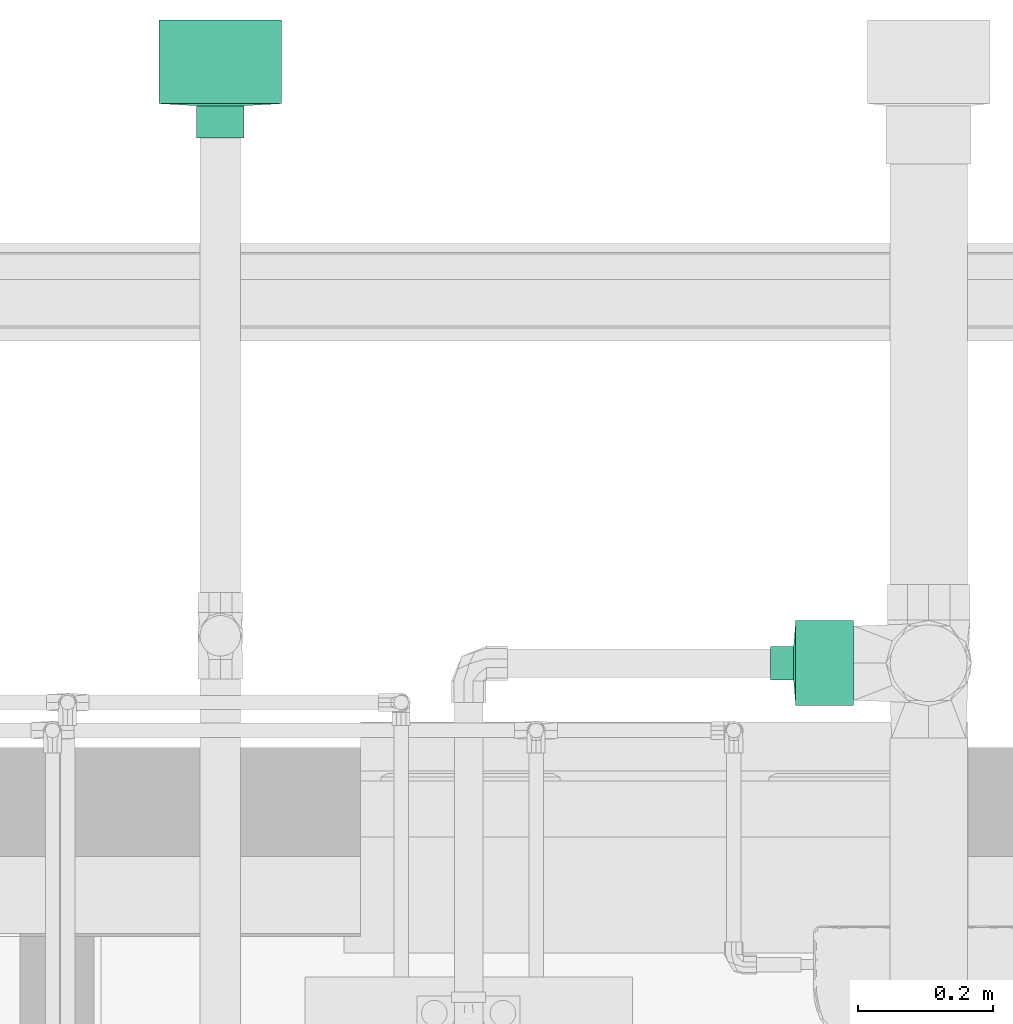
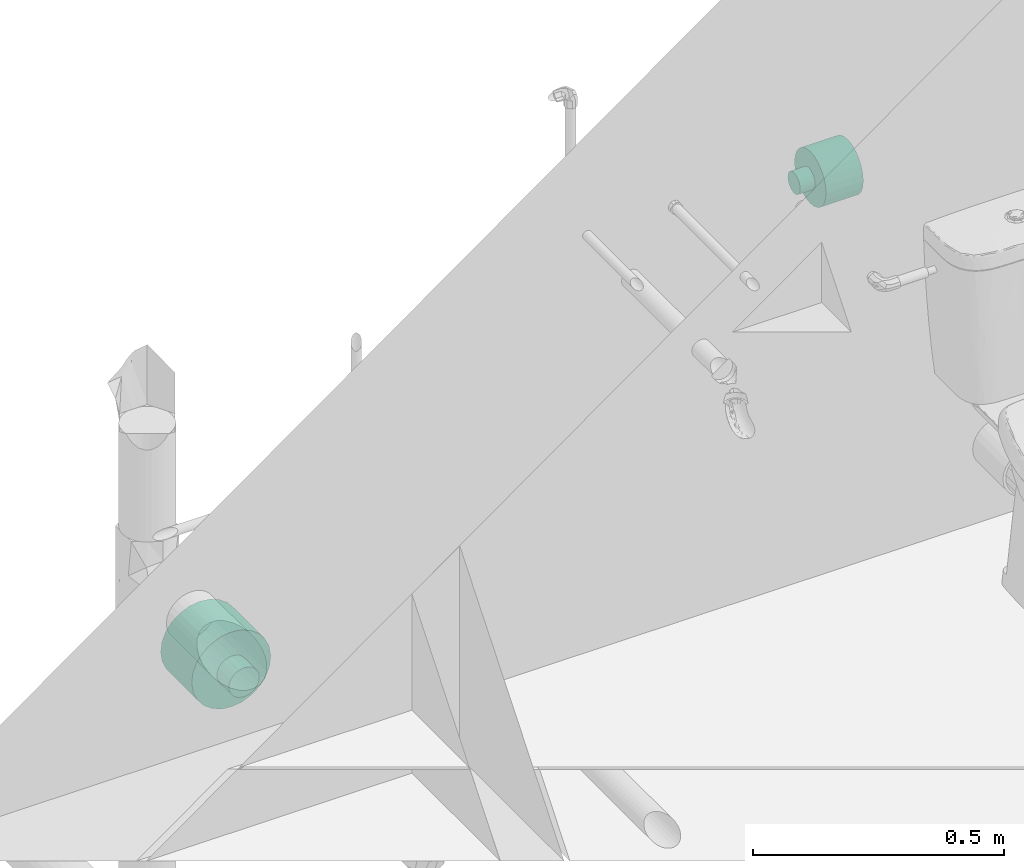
# One storey, part 35 of 41: 2 flow fittings.
"""IFC2X3 building model written with IfcOpenShell, lengths in millimetres."""

from ifc_helpers import new_model, entity, si_unit, converted_unit, derived_unit, direction, frame, origin, place, context, subcontext, project, spatial, faceted_brep, source, transform, mapped, type_object, type_shapes, element, save


model = new_model("IFC2X3")

# Units and contexts
model_context = context("Model", 3, precision=0.01, world=origin(), true_north=direction((6.12303176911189e-17, 1.0)))
body_context = subcontext(model_context, "Body", "Model", "MODEL_VIEW")
ifc_project = project(units=[si_unit("LENGTHUNIT", "METRE", prefix="MILLI"), si_unit("AREAUNIT", "SQUARE_METRE"), si_unit("VOLUMEUNIT", "CUBIC_METRE"), converted_unit("PLANEANGLEUNIT", "DEGREE", entity("IfcRatioMeasure", 0.0174532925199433), si_unit("PLANEANGLEUNIT", "RADIAN"), dimensions=[0, 0, 0, 0, 0, 0, 0]), si_unit("MASSUNIT", "GRAM", prefix="KILO"), derived_unit("MASSDENSITYUNIT", [(si_unit("MASSUNIT", "GRAM", prefix="KILO"), 1), (si_unit("LENGTHUNIT", "METRE"), -3)]), si_unit("TIMEUNIT", "SECOND"), si_unit("FREQUENCYUNIT", "HERTZ"), si_unit("THERMODYNAMICTEMPERATUREUNIT", "DEGREE_CELSIUS"), derived_unit("THERMALTRANSMITTANCEUNIT", [(si_unit("MASSUNIT", "GRAM", prefix="KILO"), 1), (si_unit("THERMODYNAMICTEMPERATUREUNIT", "KELVIN"), -1), (si_unit("TIMEUNIT", "SECOND"), -3)]), derived_unit("VOLUMETRICFLOWRATEUNIT", [(si_unit("LENGTHUNIT", "METRE"), 3), (si_unit("TIMEUNIT", "SECOND"), -1)]), si_unit("ELECTRICCURRENTUNIT", "AMPERE"), si_unit("ELECTRICVOLTAGEUNIT", "VOLT"), si_unit("POWERUNIT", "WATT"), si_unit("FORCEUNIT", "NEWTON", prefix="KILO"), si_unit("ILLUMINANCEUNIT", "LUX"), si_unit("LUMINOUSFLUXUNIT", "LUMEN"), si_unit("LUMINOUSINTENSITYUNIT", "CANDELA"), derived_unit("USERDEFINED", [(si_unit("MASSUNIT", "GRAM", prefix="KILO"), -1), (si_unit("LENGTHUNIT", "METRE"), -2), (si_unit("TIMEUNIT", "SECOND"), 3), (si_unit("LUMINOUSFLUXUNIT", "LUMEN"), 1)]), derived_unit("LINEARVELOCITYUNIT", [(si_unit("LENGTHUNIT", "METRE"), 1), (si_unit("TIMEUNIT", "SECOND"), -1)]), si_unit("PRESSUREUNIT", "PASCAL"), derived_unit("USERDEFINED", [(si_unit("LENGTHUNIT", "METRE"), -2), (si_unit("MASSUNIT", "GRAM", prefix="KILO"), 1), (si_unit("TIMEUNIT", "SECOND"), -2)])], contexts=[model_context])

# Site, building, storey
site_placement = place(None, origin())
site = spatial("IfcSite", under=ifc_project, at=site_placement, Name="Surface", CompositionType="ELEMENT")
building_placement = place(site_placement, origin())
building = spatial("IfcBuilding", under=site, at=building_placement, CompositionType="ELEMENT")
storey_placement = place(building_placement, frame((0.0, 0.0, 300.0)))
storey = spatial("IfcBuildingStorey", under=building, at=storey_placement, Name="F.F.L", CompositionType="ELEMENT", Elevation=300.0)

# Flow fittings
pipe_fitting_type_1 = type_object("IfcPipeFittingType", Name="Standard", PredefinedType="NOTDEFINED")
shared_shape_1 = source(origin(), body_context, "Body", "Brep", [
    faceted_brep([(89.0968750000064, 20.1488418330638, 14.6446236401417), (89.0968750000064, 13.9201113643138, 19.1700612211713), (89.0968750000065, 7.69138089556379, 23.6954988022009), (89.0968750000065, -0.00775337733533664, 23.6954988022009), (89.0968750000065, -3.8573205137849, 23.6954988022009), (89.0968750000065, -7.70688765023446, 23.6954988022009), (89.0968750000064, -13.9356181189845, 19.1700612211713), (89.0968750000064, -20.1643485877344, 14.6446236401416), (89.0968750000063, -22.5435119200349, 7.32231182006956), (89.0968750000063, -23.5267653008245, 4.29616907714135), (89.0968750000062, -24.9226752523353, 0.0), (89.0968750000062, -23.5267656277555, -4.29616807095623), (89.0968750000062, -22.5435119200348, -7.3223118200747), (89.0968750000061, -20.1643485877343, -14.6446236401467), (89.096875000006, -13.9356181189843, -19.1700612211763), (89.096875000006, -7.70688765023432, -23.6954988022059), (89.096875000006, -0.00775337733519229, -23.6954988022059), (89.096875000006, 3.84181375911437, -23.6954988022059), (89.096875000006, 7.69138089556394, -23.6954988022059), (89.096875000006, 13.9201113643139, -19.1700612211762), (89.0968750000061, 20.1488418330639, -14.6446236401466), (89.0968750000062, 22.5280051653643, -7.32231182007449), (89.0968750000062, 23.5112585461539, -4.29616907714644), (89.0968750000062, 24.9071684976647, 0.0), (89.0968750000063, 23.511258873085, 4.29616807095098), (89.0968750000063, 22.5280051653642, 7.32231182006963), (85.9218750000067, -48.0165774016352, 38.2919427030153), (85.9218750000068, -39.2766913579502, 49.2514131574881), (85.9218750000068, -26.6471901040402, 55.333460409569), (85.9218750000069, -14.0176888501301, 61.41550766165), (85.9218750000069, 0.0, 61.41550766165), (85.9218750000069, 14.01768885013, 61.41550766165), (85.9218750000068, 26.64719010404, 55.3334604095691), (85.9218750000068, 39.27669135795, 49.2514131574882), (85.9218750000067, 48.016577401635, 38.2919427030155), (85.9218750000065, 56.75646344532, 27.3324722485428), (85.9218750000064, 59.87569266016, 13.666236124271), (85.9218750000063, 62.994921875, 0.0), (85.9218750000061, 59.8756926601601, -13.6662361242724), (85.921875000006, 56.7564634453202, -27.3324722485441), (85.9218750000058, 48.0165774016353, -38.2919427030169), (85.9218750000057, 39.2766913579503, -49.2514131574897), (85.9218750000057, 26.6471901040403, -55.3334604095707), (85.9218750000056, 14.0176888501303, -61.4155076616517), (85.9218750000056, 0.0, -61.4155076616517), (85.9218750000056, -14.0176888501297, -61.4155076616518), (85.9218750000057, -26.6471901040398, -55.333460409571), (85.9218750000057, -39.2766913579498, -49.2514131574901), (85.9218750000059, -48.0165774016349, -38.2919427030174), (85.921875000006, -56.7564634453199, -27.3324722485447), (85.9218750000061, -59.87569266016, -13.666236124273), (85.9218750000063, -62.994921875, 0.0), (85.9218750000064, -59.8756926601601, 13.6662361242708), (85.9218750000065, -56.7564634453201, 27.3324722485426), (87.4243497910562, 23.9243074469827, -38.0811577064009), (87.4301877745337, 15.5463552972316, -42.1263061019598), (87.5722592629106, -30.8970561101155, -30.1980467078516), (87.4243497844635, -23.9316462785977, -38.0811573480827), (87.6808866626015, -6.19964656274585, -41.4372838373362), (87.5093749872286, 3.44478677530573, -43.8194236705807), (87.3127220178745, 45.5942079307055, -8.11175115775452), (87.4260565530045, 42.19170049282, -15.5058759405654), (87.5722593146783, 30.8889944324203, -30.1980470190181), (87.4290036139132, 38.0595405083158, -23.8515470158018), (87.4290038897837, -38.0668996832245, -23.8515434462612), (87.4260567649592, -42.1990449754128, -15.5058739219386), (87.4301877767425, -15.5537223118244, -42.1263059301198), (87.3127220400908, -45.6010005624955, -8.11175126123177), (87.4307798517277, 44.8938838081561, 0.0), (87.4307796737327, -44.9012554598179, 0.0), (87.424349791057, -23.9316455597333, 38.0811577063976), (87.4301877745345, -15.5537219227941, 42.1263061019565), (87.5722592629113, 30.8889956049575, 30.1980467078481), (87.4243497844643, 23.9243081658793, 38.0811573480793), (87.6808866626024, 6.1910555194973, 41.4372838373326), (87.5093749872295, -3.45254015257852, 43.8194236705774), (87.3127220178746, -45.6010008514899, 8.1117511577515), (87.4260565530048, -42.1990469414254, 15.5058759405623), (87.5722593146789, -30.8970549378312, 30.1980470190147), (87.4290036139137, -38.0669013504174, 23.8515470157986), (87.4290038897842, 38.0595388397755, 23.8515434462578), (87.4260567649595, 42.1916985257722, 15.5058739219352), (87.4301877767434, 15.5463556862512, 42.1263059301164), (87.312722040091, 45.5942076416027, 8.11175126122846)], [[[0, 1, 2, 3, 4, 5, 6, 7, 8, 9, 10, 11, 12, 13, 14, 15, 16, 17, 18, 19, 20, 21, 22, 23, 24, 25]], [[26, 27, 28, 29, 30, 31, 32, 33, 34, 35, 36, 37, 38, 39, 40, 41, 42, 43, 44, 45, 46, 47, 48, 49, 50, 51, 52, 53]], [[54, 18, 55]], [[56, 57, 14]], [[41, 54, 42]], [[16, 58, 59]], [[21, 60, 22]], [[60, 61, 38]], [[59, 43, 55]], [[62, 40, 63]], [[19, 18, 54]], [[20, 19, 62]], [[58, 45, 44]], [[55, 42, 54]], [[13, 64, 56]], [[17, 59, 55]], [[17, 16, 59]], [[12, 65, 64]], [[41, 62, 54]], [[66, 46, 45]], [[55, 43, 42]], [[57, 47, 46]], [[67, 65, 12]], [[20, 62, 63]], [[18, 17, 55]], [[59, 58, 44]], [[59, 44, 43]], [[54, 62, 19]], [[58, 16, 15]], [[66, 57, 46]], [[47, 57, 56]], [[66, 15, 57]], [[14, 57, 15]], [[48, 47, 56]], [[13, 56, 14]], [[66, 58, 15]], [[58, 66, 45]], [[60, 68, 22]], [[62, 41, 40]], [[49, 48, 64]], [[39, 63, 40]], [[21, 20, 63]], [[63, 61, 21]], [[61, 63, 39]], [[60, 38, 37]], [[61, 39, 38]], [[23, 22, 68]], [[56, 64, 48]], [[12, 11, 67]], [[65, 49, 64]], [[64, 13, 12]], [[67, 69, 51]], [[65, 50, 49]], [[11, 10, 69]], [[50, 65, 67]], [[21, 61, 60]], [[68, 60, 37]], [[50, 67, 51]], [[69, 67, 11]], [[70, 5, 71]], [[72, 73, 1]], [[27, 70, 28]], [[3, 74, 75]], [[8, 76, 9]], [[76, 77, 52]], [[75, 29, 71]], [[78, 26, 79]], [[6, 5, 70]], [[7, 6, 78]], [[74, 31, 30]], [[71, 28, 70]], [[0, 80, 72]], [[4, 75, 71]], [[4, 3, 75]], [[25, 81, 80]], [[27, 78, 70]], [[82, 32, 31]], [[71, 29, 28]], [[73, 33, 32]], [[83, 81, 25]], [[7, 78, 79]], [[5, 4, 71]], [[75, 74, 30]], [[75, 30, 29]], [[70, 78, 6]], [[74, 3, 2]], [[82, 73, 32]], [[33, 73, 72]], [[82, 2, 73]], [[1, 73, 2]], [[34, 33, 72]], [[0, 72, 1]], [[82, 74, 2]], [[74, 82, 31]], [[76, 69, 9]], [[78, 27, 26]], [[35, 34, 80]], [[53, 79, 26]], [[8, 7, 79]], [[79, 77, 8]], [[77, 79, 53]], [[76, 52, 51]], [[77, 53, 52]], [[10, 9, 69]], [[72, 80, 34]], [[25, 24, 83]], [[81, 35, 80]], [[80, 0, 25]], [[83, 68, 37]], [[81, 36, 35]], [[24, 23, 68]], [[36, 81, 83]], [[8, 77, 76]], [[69, 76, 51]], [[36, 83, 37]], [[68, 83, 24]]]),
    faceted_brep([(123.338750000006, -6.45620966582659, -24.0659664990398), (123.338750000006, -0.00775337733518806, -24.9149218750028), (123.338750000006, 6.44070291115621, -24.0659664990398), (123.338750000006, 12.4497075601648, -21.5769552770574), (123.338750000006, 17.6097568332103, -17.6175102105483), (123.338750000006, 21.5692018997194, -12.4574609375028), (123.338750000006, 24.0582131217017, -6.44845628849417), (123.338750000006, 24.9071684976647, 0.0), (123.338750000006, 24.0582131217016, 6.44845628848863), (123.338750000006, 21.5692018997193, 12.4574609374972), (123.338750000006, 17.6097568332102, 17.6175102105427), (123.338750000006, 12.4497075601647, 21.5769552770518), (123.338750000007, 6.44070291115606, 24.0659664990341), (123.338750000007, -0.00775337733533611, 24.9149218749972), (123.338750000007, -6.45620966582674, 24.0659664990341), (123.338750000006, -12.4652143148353, 21.5769552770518), (123.338750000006, -17.6252635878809, 17.6175102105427), (123.338750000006, -21.5847086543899, 12.4574609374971), (123.338750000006, -24.0737198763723, 6.44845628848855), (123.338750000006, -24.9226752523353, 0.0), (123.338750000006, -24.0737198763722, -6.44845628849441), (123.338750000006, -21.5847086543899, -12.457460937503), (123.338750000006, -17.6252635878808, -17.6175102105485), (123.338750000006, -12.4652143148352, -21.5769552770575), (89.0968750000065, -6.45620966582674, 24.0659664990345), (89.0968750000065, -0.00775337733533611, 24.9149218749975), (89.0968750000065, 6.44070291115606, 24.0659664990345), (89.0968750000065, 12.4497075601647, 21.5769552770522), (89.0968750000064, 17.6097568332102, 17.6175102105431), (89.0968750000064, 21.5692018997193, 12.4574609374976), (89.0968750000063, 24.0582131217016, 6.44845628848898), (89.0968750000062, 24.9071684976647, 0.0), (89.0968750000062, 24.0582131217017, -6.44845628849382), (89.0968750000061, 21.5692018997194, -12.4574609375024), (89.0968750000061, 17.6097568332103, -17.617510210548), (89.096875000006, 12.4497075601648, -21.5769552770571), (89.096875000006, 6.44070291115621, -24.0659664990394), (89.096875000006, -0.00775337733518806, -24.9149218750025), (89.096875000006, -6.45620966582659, -24.0659664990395), (89.096875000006, -12.4652143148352, -21.5769552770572), (89.0968750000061, -17.6252635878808, -17.6175102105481), (89.0968750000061, -21.5847086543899, -12.4574609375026), (89.0968750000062, -24.0737198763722, -6.44845628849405), (89.0968750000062, -24.9226752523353, 0.0), (89.0968750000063, -24.0737198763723, 6.4484562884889), (89.0968750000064, -21.5847086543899, 12.4574609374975), (89.0968750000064, -17.6252635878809, 17.617510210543), (89.0968750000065, -12.4652143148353, 21.5769552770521)], [[[0, 1, 2, 3, 4, 5, 6, 7, 8, 9, 10, 11, 12, 13, 14, 15, 16, 17, 18, 19, 20, 21, 22, 23]], [[24, 25, 26, 27, 28, 29, 30, 31, 32, 33, 34, 35, 36, 37, 38, 39, 40, 41, 42, 43, 44, 45, 46, 47]], [[31, 7, 6, 32]], [[32, 6, 5, 33]], [[2, 1, 37, 36]], [[33, 5, 4, 34]], [[4, 3, 35, 34]], [[2, 36, 35, 3]], [[39, 38, 0, 23]], [[39, 23, 22, 40]], [[42, 41, 21, 20]], [[22, 21, 41, 40]], [[43, 42, 20, 19]], [[1, 0, 38, 37]], [[43, 19, 18, 44]], [[44, 18, 17, 45]], [[46, 16, 15, 47]], [[45, 17, 16, 46]], [[24, 14, 13, 25]], [[47, 15, 14, 24]], [[27, 26, 12, 11]], [[27, 11, 10, 28]], [[30, 29, 9, 8]], [[10, 9, 29, 28]], [[31, 30, 8, 7]], [[13, 12, 26, 25]]]),
    faceted_brep([(85.9218750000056, -16.3042855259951, -60.8484219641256), (85.9218750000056, 0.0, -62.9949218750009), (85.9218750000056, 16.3042855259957, -60.8484219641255), (85.9218750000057, 31.4974609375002, -54.5552026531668), (85.9218750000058, 44.5441364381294, -44.54413643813), (85.9218750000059, 54.5552026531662, -31.4974609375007), (85.9218750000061, 60.8484219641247, -16.3042855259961), (85.9218750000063, 62.994921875, 0.0), (85.9218750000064, 60.8484219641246, 16.3042855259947), (85.9218750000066, 54.555202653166, 31.4974609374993), (85.9218750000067, 44.5441364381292, 44.5441364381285), (85.9218750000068, 31.4974609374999, 54.5552026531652), (85.9218750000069, 16.3042855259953, 60.8484219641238), (85.9218750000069, 0.0, 62.9949218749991), (85.9218750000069, -16.3042855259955, 60.8484219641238), (85.9218750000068, -31.4974609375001, 54.5552026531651), (85.9218750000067, -44.5441364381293, 44.5441364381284), (85.9218750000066, -54.5552026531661, 31.4974609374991), (85.9218750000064, -60.8484219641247, 16.3042855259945), (85.9218750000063, -62.994921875, 0.0), (85.9218750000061, -60.8484219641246, -16.3042855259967), (85.9218750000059, -54.5552026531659, -31.4974609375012), (85.9218750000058, -44.544136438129, -44.5441364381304), (85.9218750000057, -31.4974609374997, -54.5552026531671), (0.0, -16.3042855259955, 60.8484219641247), (0.0, 0.0, 62.994921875), (0.0, 16.3042855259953, 60.8484219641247), (0.0, 31.4974609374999, 54.5552026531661), (0.0, 44.5441364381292, 44.5441364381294), (0.0, 54.555202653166, 31.4974609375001), (0.0, 60.8484219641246, 16.3042855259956), (0.0, 62.994921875, 0.0), (0.0, 60.8484219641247, -16.3042855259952), (0.0, 54.5552026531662, -31.4974609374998), (0.0, 44.5441364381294, -44.5441364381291), (0.0, 31.4974609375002, -54.5552026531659), (0.0, 16.3042855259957, -60.8484219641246), (0.0, 0.0, -62.994921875), (0.0, -16.3042855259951, -60.8484219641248), (0.0, -31.4974609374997, -54.5552026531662), (0.0, -44.544136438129, -44.5441364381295), (0.0, -54.5552026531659, -31.4974609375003), (0.0, -60.8484219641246, -16.3042855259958), (0.0, -62.994921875, 0.0), (0.0, -60.8484219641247, 16.3042855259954), (0.0, -54.5552026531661, 31.4974609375), (0.0, -44.5441364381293, 44.5441364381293), (0.0, -31.4974609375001, 54.555202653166)], [[[0, 1, 2, 3, 4, 5, 6, 7, 8, 9, 10, 11, 12, 13, 14, 15, 16, 17, 18, 19, 20, 21, 22, 23]], [[24, 25, 26, 27, 28, 29, 30, 31, 32, 33, 34, 35, 36, 37, 38, 39, 40, 41, 42, 43, 44, 45, 46, 47]], [[33, 32, 6, 5]], [[33, 5, 4, 34]], [[36, 35, 3, 2]], [[4, 3, 35, 34]], [[37, 36, 2, 1]], [[31, 7, 6, 32]], [[39, 38, 0, 23]], [[39, 23, 22, 40]], [[42, 41, 21, 20]], [[22, 21, 41, 40]], [[43, 42, 20, 19]], [[1, 0, 38, 37]], [[44, 43, 19, 18]], [[44, 18, 17, 45]], [[24, 47, 15, 14]], [[25, 24, 14, 13]], [[15, 47, 46, 16]], [[45, 17, 16, 46]], [[27, 26, 12, 11]], [[27, 11, 10, 28]], [[30, 29, 9, 8]], [[10, 9, 29, 28]], [[31, 30, 8, 7]], [[13, 12, 26, 25]]]),
])
type_shapes(pipe_fitting_type_1, [shared_shape_1])
flow_fitting_1_placement = place(storey_placement, frame((-1401.29362323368, 10950.4839192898, 650.048268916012), z_axis=(0.0, 0.0, 1.0), x_axis=(-1.0, 0.0, 0.0)))
element("IfcFlowFitting", 1, at=flow_fitting_1_placement, inside=storey, type_object=pipe_fitting_type_1, Name="M_Coupling Reducing - PVC - Sch 40:Standard", ObjectType="Standard", context=body_context, shape_type="MappedRepresentation", body=[
    mapped(shared_shape_1, transform((0.0, 0.0, 0.0), scale=1.0)),
])
pipe_fitting_type_2 = type_object("IfcPipeFittingType", Name="Standard", PredefinedType="NOTDEFINED")
shared_shape_2 = source(origin(), body_context, "Body", "Brep", [
    faceted_brep([(127.096875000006, -30.3064913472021, 17.4974609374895), (127.096874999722, -32.6507066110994, 8.74873046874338), (127.096875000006, -34.9949218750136, 0.0), (127.096875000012, -32.6507066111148, -8.74873046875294), (127.096875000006, -30.306491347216, -17.4974609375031), (127.096875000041, -23.9019761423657, -23.9019761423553), (127.096875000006, -17.4974609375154, -30.3064913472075), (127.096875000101, -8.74873046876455, -32.6507066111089), (127.096875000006, 0.0, -34.9949218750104), (127.096875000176, 8.74873046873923, -32.6507066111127), (127.096875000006, 17.4974609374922, -30.306491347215), (127.096875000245, 23.9019761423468, -23.9019761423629), (127.096875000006, 30.3064913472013, -17.4974609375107), (127.09687500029, 32.6507066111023, -8.7487304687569), (127.096875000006, 34.9949218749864, 0.0), (127.096875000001, 32.650706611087, 8.74873046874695), (127.096875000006, 30.3064913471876, 17.4974609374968), (127.096874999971, 23.9019761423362, 23.9019761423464), (127.096875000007, 17.4974609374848, 30.3064913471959), (127.096874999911, 8.74873046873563, 32.6507066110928), (127.096875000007, 0.0, 34.9949218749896), (127.096874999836, -8.74873046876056, 32.6507066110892), (127.096875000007, -17.4974609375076, 30.3064913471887), (127.096874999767, -23.9019761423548, 23.9019761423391), (123.921875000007, 15.8011023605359, 89.6125045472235), (123.921875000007, 45.4974609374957, 78.8039139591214), (123.921875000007, 69.7061542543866, 58.4904083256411), (123.921875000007, 85.5072566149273, 31.1220962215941), (123.921875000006, 90.994921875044, 0.0), (123.921875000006, 85.5072566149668, -31.1220962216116), (123.921875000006, 69.7061542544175, -58.4904083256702), (123.921875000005, 45.497460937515, -78.8039139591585), (123.921875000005, 15.8011023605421, -89.6125045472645), (123.921875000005, -15.8011023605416, -89.6125045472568), (123.921875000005, -45.4974609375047, -78.803913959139), (123.921875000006, -69.7061542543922, -58.4904083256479), (123.921875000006, -85.5072566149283, -31.1220962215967), (123.921875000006, -90.994921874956, 0.0), (123.921875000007, -85.5072566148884, 31.1220962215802), (123.921875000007, -69.7061542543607, 58.4904083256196), (123.921875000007, -45.4974609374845, 78.8039139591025), (123.921875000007, -15.8011023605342, 89.612504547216)], [[[0, 1, 2, 3, 4, 5, 6, 7, 8, 9, 10, 11, 12, 13, 14, 15, 16, 17, 18, 19, 20, 21, 22, 23]], [[24, 25, 26, 27, 28, 29, 30, 31, 32, 33, 34, 35, 36, 37, 38, 39, 40, 41]], [[28, 13, 29]], [[31, 11, 10]], [[31, 9, 32]], [[33, 8, 7]], [[30, 12, 11]], [[36, 4, 3]], [[30, 29, 12]], [[11, 31, 30]], [[5, 4, 35]], [[9, 31, 10]], [[6, 34, 7]], [[37, 3, 2]], [[34, 5, 35]], [[13, 12, 29]], [[34, 33, 7]], [[4, 36, 35]], [[5, 34, 6]], [[9, 8, 32]], [[3, 37, 36]], [[13, 28, 14]], [[8, 33, 32]], [[37, 1, 38]], [[40, 23, 22]], [[40, 21, 41]], [[24, 20, 19]], [[39, 0, 23]], [[27, 16, 15]], [[39, 38, 0]], [[23, 40, 39]], [[17, 16, 26]], [[21, 40, 22]], [[18, 25, 19]], [[28, 15, 14]], [[25, 17, 26]], [[1, 0, 38]], [[25, 24, 19]], [[16, 27, 26]], [[17, 25, 18]], [[21, 20, 41]], [[15, 28, 27]], [[1, 37, 2]], [[20, 24, 41]]]),
    faceted_brep([(175.018750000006, 9.05735226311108, -33.8024988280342), (175.018750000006, 17.4974609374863, -30.3064913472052), (175.018750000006, 24.7451465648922, -24.7451465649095), (175.018750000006, 30.3064913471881, -17.4974609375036), (175.018750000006, 33.8024988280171, -9.05735226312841), (175.018750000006, 34.9949218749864, 0.0), (175.018750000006, 33.8024988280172, 9.05735226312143), (175.018750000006, 30.3064913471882, 17.4974609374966), (175.018750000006, 24.7451465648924, 24.7451465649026), (175.018750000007, 17.4974609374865, 30.3064913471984), (175.018750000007, 9.05735226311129, 33.8024988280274), (175.018750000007, 0.0, 34.9949218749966), (175.018750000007, -9.05735226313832, 33.8024988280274), (175.018750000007, -17.4974609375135, 30.3064913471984), (175.018750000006, -24.7451465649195, 24.7451465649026), (175.018750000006, -30.3064913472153, 17.4974609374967), (175.018750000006, -33.8024988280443, 9.05735226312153), (175.018750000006, -34.9949218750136, 0.0), (175.018750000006, -33.8024988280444, -9.05735226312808), (175.018750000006, -30.3064913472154, -17.4974609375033), (175.018750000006, -24.7451465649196, -24.7451465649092), (175.018750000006, -17.4974609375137, -30.3064913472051), (175.018750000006, -9.05735226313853, -33.8024988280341), (175.018750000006, 0.0, -34.9949218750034), (127.096875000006, 33.8024988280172, 9.05735226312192), (127.096875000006, 34.9949218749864, 0.0), (127.096875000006, 33.8024988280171, -9.05735226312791), (127.096875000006, 30.3064913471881, -17.4974609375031), (127.096875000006, 24.7451465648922, -24.745146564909), (127.096875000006, 17.4974609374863, -30.3064913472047), (127.096875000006, 9.05735226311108, -33.8024988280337), (127.096875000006, 0.0, -34.9949218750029), (127.096875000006, -9.05735226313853, -33.8024988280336), (127.096875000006, -17.4974609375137, -30.3064913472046), (127.096875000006, -24.7451465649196, -24.7451465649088), (127.096875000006, -30.3064913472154, -17.4974609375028), (127.096875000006, -33.8024988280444, -9.05735226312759), (127.096875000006, -34.9949218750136, 0.0), (127.096875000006, -33.8024988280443, 9.05735226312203), (127.096875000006, -30.3064913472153, 17.4974609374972), (127.096875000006, -24.7451465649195, 24.7451465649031), (127.096875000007, -17.4974609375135, 30.3064913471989), (127.096875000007, -9.05735226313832, 33.8024988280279), (127.096875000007, 0.0, 34.9949218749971), (127.096875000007, 9.05735226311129, 33.8024988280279), (127.096875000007, 17.4974609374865, 30.3064913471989), (127.096875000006, 24.7451465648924, 24.745146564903), (127.096875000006, 30.3064913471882, 17.4974609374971)], [[[0, 1, 2, 3, 4, 5, 6, 7, 8, 9, 10, 11, 12, 13, 14, 15, 16, 17, 18, 19, 20, 21, 22, 23]], [[24, 25, 26, 27, 28, 29, 30, 31, 32, 33, 34, 35, 36, 37, 38, 39, 40, 41, 42, 43, 44, 45, 46, 47]], [[37, 36, 18, 17]], [[21, 33, 32, 22]], [[34, 33, 21, 20]], [[22, 32, 31, 23]], [[18, 36, 35, 19]], [[35, 34, 20, 19]], [[0, 30, 29, 1]], [[28, 2, 1, 29]], [[3, 27, 26, 4]], [[28, 27, 3, 2]], [[4, 26, 25, 5]], [[30, 0, 23, 31]], [[24, 6, 5, 25]], [[47, 7, 6, 24]], [[47, 46, 8, 7]], [[46, 45, 9, 8]], [[44, 10, 9, 45]], [[10, 44, 43, 11]], [[12, 42, 41, 13]], [[40, 14, 13, 41]], [[15, 39, 38, 16]], [[40, 39, 15, 14]], [[16, 38, 37, 17]], [[42, 12, 11, 43]]]),
    faceted_brep([(123.921875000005, 45.4974609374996, -78.8039139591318), (123.921875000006, 64.3431263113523, -64.3431263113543), (123.921875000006, 78.8039139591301, -45.4974609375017), (123.921875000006, 87.8943451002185, -23.5512187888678), (123.921875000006, 90.994921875, 0.0), (123.921875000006, 87.8943451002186, 23.5512187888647), (123.921875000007, 78.8039139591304, 45.4974609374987), (123.921875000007, 64.3431263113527, 64.3431263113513), (123.921875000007, 45.4974609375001, 78.803913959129), (123.921875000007, 23.5512187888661, 87.8943451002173), (123.921875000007, 0.0, 90.9949218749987), (123.921875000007, -23.5512187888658, 87.8943451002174), (123.921875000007, -45.4974609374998, 78.8039139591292), (123.921875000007, -64.3431263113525, 64.3431263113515), (123.921875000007, -78.8039139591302, 45.4974609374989), (123.921875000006, -87.8943451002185, 23.551218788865), (123.921875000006, -90.994921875, 0.0), (123.921875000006, -87.8943451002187, -23.5512187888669), (123.921875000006, -78.8039139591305, -45.497460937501), (123.921875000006, -64.3431263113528, -64.3431263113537), (123.921875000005, -45.4974609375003, -78.8039139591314), (123.921875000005, -23.5512187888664, -87.8943451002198), (123.921875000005, 0.0, -90.9949218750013), (123.921875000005, 23.5512187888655, -87.89434510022), (0.0, 0.0, 90.994921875), (0.0, 23.5512187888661, 87.8943451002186), (0.0, 45.4974609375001, 78.8039139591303), (0.0, 64.3431263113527, 64.3431263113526), (0.0, 78.8039139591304, 45.4974609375), (0.0, 87.8943451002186, 23.551218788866), (0.0, 90.994921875, 0.0), (0.0, 87.8943451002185, -23.5512187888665), (0.0, 78.8039139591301, -45.4974609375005), (0.0, 64.3431263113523, -64.343126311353), (0.0, 45.4974609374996, -78.8039139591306), (0.0, 23.5512187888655, -87.8943451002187), (0.0, 0.0, -90.994921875), (0.0, -23.5512187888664, -87.8943451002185), (0.0, -45.4974609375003, -78.8039139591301), (0.0, -64.3431263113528, -64.3431263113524), (0.0, -78.8039139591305, -45.4974609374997), (0.0, -87.8943451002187, -23.5512187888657), (0.0, -90.994921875, 0.0), (0.0, -87.8943451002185, 23.5512187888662), (0.0, -78.8039139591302, 45.4974609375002), (0.0, -64.3431263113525, 64.3431263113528), (0.0, -45.4974609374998, 78.8039139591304), (0.0, -23.5512187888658, 87.8943451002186)], [[[0, 1, 2, 3, 4, 5, 6, 7, 8, 9, 10, 11, 12, 13, 14, 15, 16, 17, 18, 19, 20, 21, 22, 23]], [[24, 25, 26, 27, 28, 29, 30, 31, 32, 33, 34, 35, 36, 37, 38, 39, 40, 41, 42, 43, 44, 45, 46, 47]], [[17, 41, 40, 18]], [[39, 19, 18, 40]], [[20, 38, 37, 21]], [[39, 38, 20, 19]], [[21, 37, 36, 22]], [[41, 17, 16, 42]], [[23, 35, 34, 0]], [[33, 1, 0, 34]], [[2, 32, 31, 3]], [[33, 32, 2, 1]], [[3, 31, 30, 4]], [[35, 23, 22, 36]], [[5, 4, 30, 29]], [[6, 5, 29, 28]], [[8, 26, 25, 9]], [[9, 25, 24, 10]], [[27, 7, 6, 28]], [[27, 26, 8, 7]], [[11, 47, 46, 12]], [[45, 13, 12, 46]], [[14, 44, 43, 15]], [[45, 44, 14, 13]], [[15, 43, 42, 16]], [[47, 11, 10, 24]]]),
])
type_shapes(pipe_fitting_type_2, [shared_shape_2])
flow_fitting_2_placement = place(storey_placement, frame((-2339.80584220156, 11903.5835294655, -750.28146412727), z_axis=(-0.0199960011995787, 0.0, 0.999800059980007), x_axis=(0.0, -1.0, 0.0)))
element("IfcFlowFitting", 2, at=flow_fitting_2_placement, inside=storey, type_object=pipe_fitting_type_2, Name="M_Coupling Reducing - PVC - Sch 40:Standard", ObjectType="Standard", context=body_context, shape_type="MappedRepresentation", body=[
    mapped(shared_shape_2, transform((0.0, 0.0, 0.0), scale=1.0)),
])

save(model, "model.ifc")
